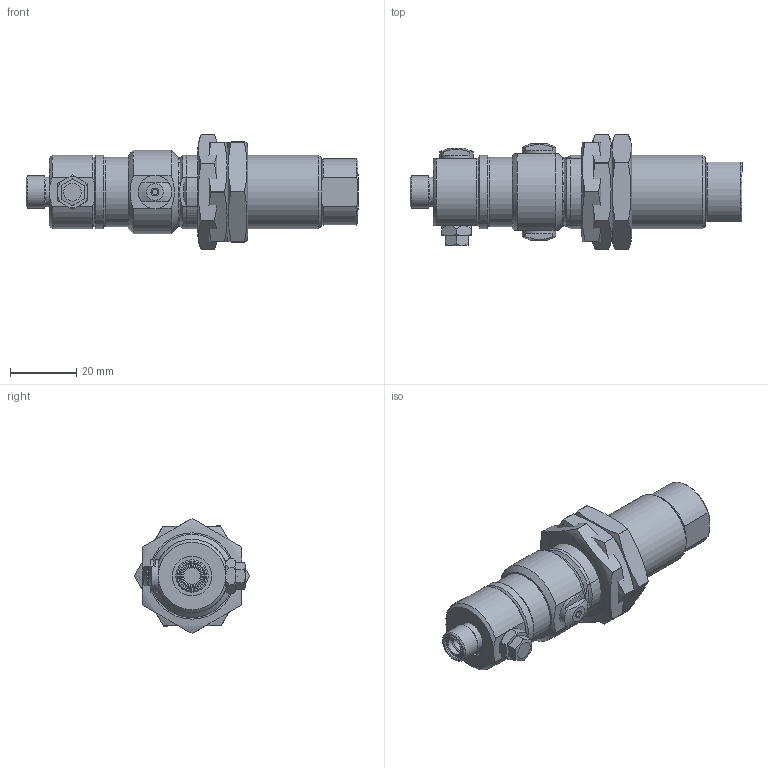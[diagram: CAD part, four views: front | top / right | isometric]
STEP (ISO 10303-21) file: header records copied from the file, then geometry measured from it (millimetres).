
FILE_DESCRIPTION( ( 'Unknown' ), '1' );
FILE_NAME( 'C:/Documents and Settings/Administrator/官帕 拳搁/vacuum speeder/VCS202C-L18M.stp', 'Unknown', ( 'Unknown' ), ( 'Unknown' ), 'PSStep 10.0', 'Unknown', ' ' );
FILE_SCHEMA( ( 'AUTOMOTIVE_DESIGN { 1 0 10303 214 1 1 1 1 }' ) );
Length unit declared in the file: millimetre
Products named in the file (10): Assem1; Housing-CS202; Fitting-202-38M-18M; Ring; Air Fitting-202-18F; Plug-VCS-M7M5F.log; Exhaust Plug-VCS-M7_2; NUT-M22XP1.5-SW19; Plug-M5B; Exhaust Plug-VCS-M7
Bounding box: 99.9 x 34.6 x 34.6 mm (x, y, z)
Volume: 60731.2 mm3; surface area: 37463.4 mm2
Topology: 20 solids, 20 shells, 495 faces, 1012 edges, 628 vertices
Faces by surface type: plane 193, cylinder 150, cone 125, torus 25, revolution 2
Full cylindrical faces by diameter (mm): 1.8 x5, 4.134 x2, 4.2 x2, 4.3 x5, 5 x4, 5.3 x2, 5.4 x2, 5.459 x2, 5.9 x10, 6.1 x5, 6.2 x4, 6.459 x6, 6.5 x7, 7 x9, 7.5 x2, 8.3 x5, 8.566 x2, 8.9 x4, 9.728 x2, 10 x5, 11.3 x2, 11.9 x2, 13.4 x4, 14.7 x2, 14.95 x4, 15.4 x8, 16.662 x2, 16.7 x2, 17.1 x2, 18.4 x2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
Entity records: 7891 total; most frequent: CARTESIAN_POINT 1614, DIRECTION 941, ORIENTED_EDGE 680, AXIS2_PLACEMENT_3D 436, EDGE_LOOP 386, EDGE_CURVE 340, FACE_OUTER_BOUND 294, VERTEX_POINT 274
